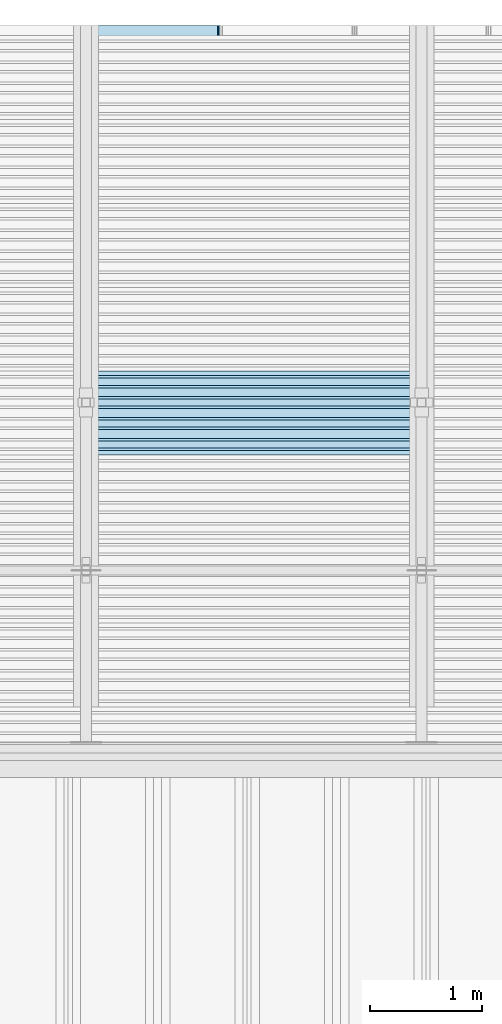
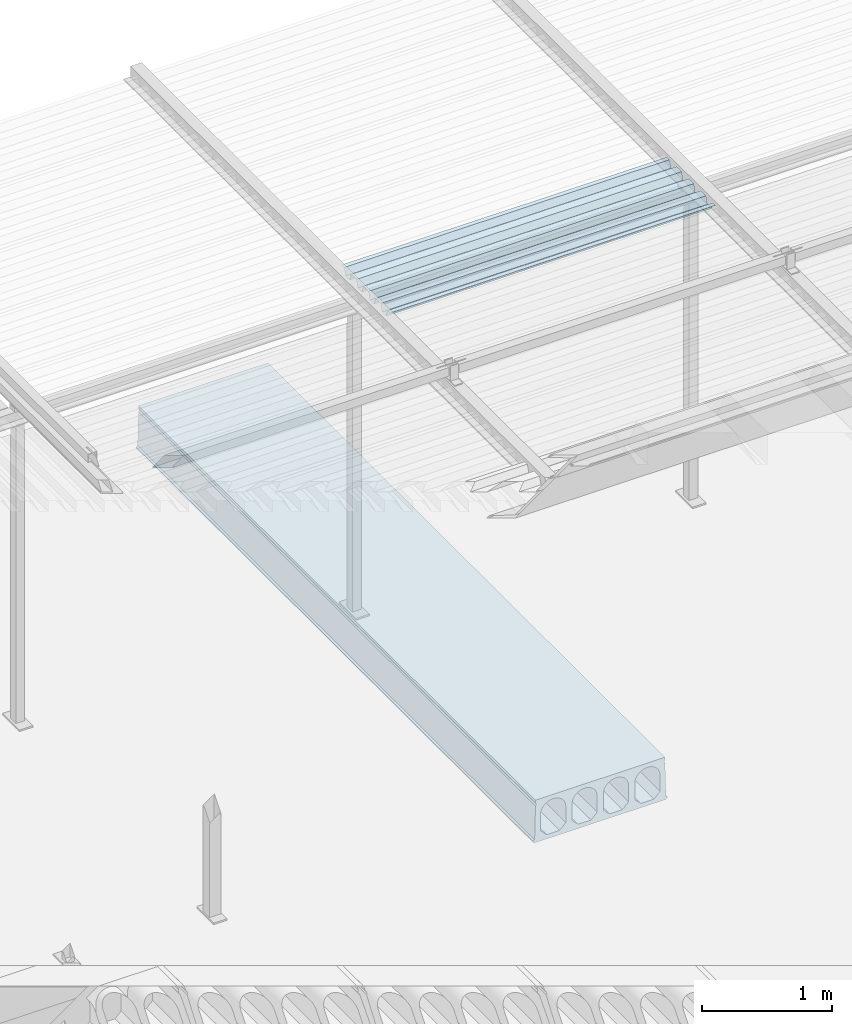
# One storey, part 87 of 98: 2 slabs.
"""IFC2X3 building model written with IfcOpenShell, lengths in millimetres."""

import ifcopenshell
import ifcopenshell.guid

model = None  # the IFC model being written
_history = None  # IfcOwnerHistory: only IFC2X3 demands one
_inside = {}  # id of a spatial element -> (the spatial element, [elements in it])
_under = {}  # id of a project, library or spatial element -> (it, [spatial elements below it])
_declared = {}  # id of a project -> (the project, [libraries it declares])
_typed = {}  # id of a type object -> (the type object, [elements of that type])
_made_of = {}  # id of a material, layer set ... -> (it, [elements and type objects made of it])


def new_model(schema):
    """Start an empty IFC model of exactly this schema.

    Asked for "IFC4X3", IfcOpenShell would pick the latest addendum, in which some entities
    have other attributes; the version numbers below select the first issue.
    IFC2X3 requires an IfcOwnerHistory on every rooted entity: one is made here for all.
    """
    global model, _history
    if schema == "IFC4X3":
        model = ifcopenshell.file(schema_version=(4, 3, 0, 0))
    else:
        model = ifcopenshell.file(schema=schema)
    _inside.clear()
    _under.clear()
    _declared.clear()
    _typed.clear()
    _made_of.clear()
    _history = None
    if model.schema == "IFC2X3":
        org = make("IfcOrganization", Name="unknown")
        user = make(
            "IfcPersonAndOrganization",
            ThePerson=make("IfcPerson", FamilyName="unknown"),
            TheOrganization=org,
        )
        app = make(
            "IfcApplication",
            ApplicationDeveloper=org,
            Version="unknown",
            ApplicationFullName="unknown",
            ApplicationIdentifier="unknown",
        )
        _history = make(
            "IfcOwnerHistory",
            OwningUser=user,
            OwningApplication=app,
            ChangeAction="ADDED",
            CreationDate=0,
        )
    return model


def make(cls, **values):
    """One entity of the class cls with the attributes given. An attribute that is None is left unset."""
    return model.create_entity(
        cls, **{name: value for name, value in values.items() if value is not None}
    )


def entity(cls, *values):
    """Any entity or typed value of the class cls, its attributes in the order of the schema. None: left unset."""
    e = model.create_entity(cls)
    for i, value in enumerate(values):
        if value is not None:
            e[i] = value
    return e


def rooted(cls, **values):
    """An entity with a GlobalId (a new one), such as an element, a storey or a relation."""
    return make(cls, GlobalId=ifcopenshell.guid.new(), OwnerHistory=_history, **values)


def si_unit(unit_type, name, prefix=None):
    """IfcSIUnit, for example si_unit("LENGTHUNIT", "METRE", prefix="MILLI")."""
    return make("IfcSIUnit", UnitType=unit_type, Prefix=prefix, Name=name)


def converted_unit(unit_type, name, factor, base, dimensions=None, offset=None):
    """IfcConversionBasedUnit, such as the inch: factor (a typed value) times the base unit."""
    return make(
        "IfcConversionBasedUnit"
        if offset is None
        else "IfcConversionBasedUnitWithOffset",
        ConversionOffset=offset,
        Dimensions=None
        if dimensions is None
        else entity("IfcDimensionalExponents", *dimensions),
        UnitType=unit_type,
        Name=name,
        ConversionFactor=make(
            "IfcMeasureWithUnit", ValueComponent=factor, UnitComponent=base
        ),
    )


def derived_unit(unit_type, elements):
    """IfcDerivedUnit: a product of units, each with its exponent."""
    return make(
        "IfcDerivedUnit",
        Elements=[
            make("IfcDerivedUnitElement", Unit=unit, Exponent=power)
            for unit, power in elements
        ],
        UnitType=unit_type,
    )


def assignment(units):
    """IfcUnitAssignment: the units of a project."""
    return None if units is None else make("IfcUnitAssignment", Units=units)


def point(xyz):
    """IfcCartesianPoint."""
    return None if xyz is None else make("IfcCartesianPoint", Coordinates=xyz)


def direction(xyz):
    """IfcDirection."""
    return None if xyz is None else make("IfcDirection", DirectionRatios=xyz)


def frame(location, z_axis=None, x_axis=None):
    """IfcAxis2Placement3D, a coordinate frame: its origin and axes. An axis left out is left unset."""
    return make(
        "IfcAxis2Placement3D",
        Location=point(location),
        Axis=direction(z_axis),
        RefDirection=direction(x_axis),
    )


def origin_with_axes():
    """The frame at (0, 0, 0) with the z axis (0, 0, 1) and the x axis (1, 0, 0) written out."""
    return frame((0.0, 0.0, 0.0), z_axis=(0.0, 0.0, 1.0), x_axis=(1.0, 0.0, 0.0))


def place(relative_to, where):
    """IfcLocalPlacement: puts the frame where relative to a parent placement (None: the world)."""
    return make(
        "IfcLocalPlacement", PlacementRelTo=relative_to, RelativePlacement=where
    )


def context(
    kind, dimensions, precision=None, world=None, true_north=None, identifier=None
):
    """IfcGeometricRepresentationContext, for example the 3D "Model" context."""
    return make(
        "IfcGeometricRepresentationContext",
        ContextIdentifier=identifier,
        ContextType=kind,
        CoordinateSpaceDimension=dimensions,
        Precision=precision,
        WorldCoordinateSystem=world,
        TrueNorth=true_north,
    )


def subcontext(parent, identifier, kind, view, scale=None):
    """IfcGeometricRepresentationSubContext, for example "Body" below "Model"."""
    return make(
        "IfcGeometricRepresentationSubContext",
        ContextIdentifier=identifier,
        ContextType=kind,
        ParentContext=parent,
        TargetScale=scale,
        TargetView=view,
    )


def project(units=None, contexts=None):
    """IfcProject with its units and contexts."""
    return rooted(
        "IfcProject",
        Name="project",
        RepresentationContexts=contexts,
        UnitsInContext=assignment(units),
    )


def spatial(cls, under=None, at=None, **own):
    """A site, building, storey or space (cls), placed at a placement, below another one or the project."""
    s = rooted(cls, ObjectPlacement=at, **own)
    if under is not None:
        _under.setdefault(under.id(), (under, []))[1].append(s)
    return s


def faces_of(points, faces, orient=None, outer=None):
    """IfcFace entities. A face is a list of loops; a loop is a list of indices into points, from 0.

    orient and outer hold one flag for each loop. By default every Orientation is true, the
    first loop of a face is its IfcFaceOuterBound and the others are IfcFaceBound.
    """
    made = []
    for i, loops in enumerate(faces):
        bounds = []
        for j, loop in enumerate(loops):
            is_outer = j == 0 if outer is None else outer[i][j]
            bounds.append(
                make(
                    "IfcFaceOuterBound" if is_outer else "IfcFaceBound",
                    Bound=make("IfcPolyLoop", Polygon=[points[k] for k in loop]),
                    Orientation=True if orient is None else orient[i][j],
                )
            )
        made.append(make("IfcFace", Bounds=bounds))
    return made


def faceted_brep(points, faces, orient=None, outer=None, voids=None):
    """IfcFacetedBrep: a solid bounded by flat faces; with voids (closed shells), ...WithVoids."""
    shared = [point(p) for p in points]
    hull = make("IfcClosedShell", CfsFaces=faces_of(shared, faces, orient, outer))
    if voids is None:
        return make("IfcFacetedBrep", Outer=hull)
    return make(
        "IfcFacetedBrepWithVoids",
        Outer=hull,
        Voids=[
            make(cls, CfsFaces=faces_of(shared, fs, o, b)) for cls, fs, o, b in voids
        ],
    )


def shape(context_of_items, identifier, shape_type, items):
    """IfcShapeRepresentation: the items that make up one representation, for example the "Body"."""
    return make(
        "IfcShapeRepresentation",
        ContextOfItems=context_of_items,
        RepresentationIdentifier=identifier,
        RepresentationType=shape_type,
        Items=items,
    )


def material(Name=None, Category=None):
    """IfcMaterial."""
    return make("IfcMaterial", Name=Name, Category=Category)


def made_of(thing, what):
    """Note that an element or type object is made of a material, layer set ...; save() writes the relation."""
    if what is not None:
        _made_of.setdefault(what.id(), (what, []))[1].append(thing)
    return thing


def type_object(cls, material=None, **own):
    """A type object (cls), such as IfcWallType, which elements share."""
    return made_of(rooted(cls, **own), material)


def element(
    cls,
    number,
    at=None,
    inside=None,
    cuts=None,
    type_object=None,
    material=None,
    context=None,
    identifier="Body",
    shape_type=None,
    held_by="IfcProductDefinitionShape",
    body=None,
    shapes=None,
    **own,
):
    """One element of the class cls, such as IfcWall. Its Tag is "e" and its number.

    at: its placement. inside: the storey or other place that contains it. cuts: it is an
    opening in that element (IfcRelVoidsElement). A single representation is given by context,
    identifier, shape_type and body (its items); several are given by shapes. held_by: the class
    of the entity that holds the representations. save() writes the other relations.
    """
    e = rooted(cls, Tag="e%d" % number, ObjectPlacement=at, **own)
    if body is not None:
        shapes = [shape(context, identifier, shape_type, body)]
    if shapes is not None:
        e.Representation = make(held_by, Representations=shapes)
    if inside is not None:
        _inside.setdefault(inside.id(), (inside, []))[1].append(e)
    if cuts is not None:
        rooted(
            "IfcRelVoidsElement", RelatingBuildingElement=cuts, RelatedOpeningElement=e
        )
    if type_object is not None:
        _typed.setdefault(type_object.id(), (type_object, []))[1].append(e)
    return made_of(e, material)


def aggregate(whole, parts):
    """IfcRelAggregates: a whole, such as a stair, and the parts it consists of."""
    return rooted("IfcRelAggregates", RelatingObject=whole, RelatedObjects=parts)


def save(model, path):
    """Write the relations noted so far, then the file.

    IfcRelAggregates (storeys below a building ...), IfcRelContainedInSpatialStructure (elements
    in a storey), IfcRelDefinesByType, IfcRelAssociatesMaterial and IfcRelDeclares: one each for
    every whole, place, type object, material and project.
    """
    for whole, parts in _under.values():
        aggregate(whole, parts)
    for where, things in _inside.values():
        rooted(
            "IfcRelContainedInSpatialStructure",
            RelatedElements=things,
            RelatingStructure=where,
        )
    for kind, things in _typed.values():
        rooted("IfcRelDefinesByType", RelatedObjects=things, RelatingType=kind)
    for what, things in _made_of.values():
        rooted("IfcRelAssociatesMaterial", RelatedObjects=things, RelatingMaterial=what)
    for by, libraries in _declared.values():
        rooted("IfcRelDeclares", RelatingContext=by, RelatedDefinitions=libraries)
    model.write(path)


model = new_model("IFC2X3")

# Units and contexts
model_context = context("Model", 3, precision=0.01, world=frame((0.0, 4.29681676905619e-09, 0.0)), true_north=direction((4.01073788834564e-13, 1.0)))
plan_context = context("Plan", 3, precision=0.01, world=frame((0.0, 4.29681676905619e-09, 0.0)), true_north=direction((4.01073788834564e-13, 1.0)))
body_context = subcontext(model_context, "Body", "Model", "MODEL_VIEW")
ifc_project = project(units=[converted_unit("PLANEANGLEUNIT", "DEGREE", entity("IfcPositiveLengthMeasure", 0.0174532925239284), si_unit("PLANEANGLEUNIT", "RADIAN"), dimensions=[0, 0, 0, 0, 0, 0, 0]), si_unit("AREAUNIT", "SQUARE_METRE"), si_unit("LENGTHUNIT", "METRE", prefix="MILLI"), si_unit("MASSUNIT", "GRAM", prefix="KILO"), si_unit("POWERUNIT", "WATT"), si_unit("PRESSUREUNIT", "PASCAL"), si_unit("FORCEUNIT", "NEWTON", prefix="KILO"), si_unit("ELECTRICCURRENTUNIT", "AMPERE"), si_unit("THERMODYNAMICTEMPERATUREUNIT", "DEGREE_CELSIUS"), si_unit("TIMEUNIT", "SECOND"), si_unit("VOLUMEUNIT", "CUBIC_METRE"), derived_unit("LINEARVELOCITYUNIT", [(si_unit("LENGTHUNIT", "METRE"), 1), (si_unit("TIMEUNIT", "SECOND"), -1)]), derived_unit("VOLUMETRICFLOWRATEUNIT", [(si_unit("VOLUMEUNIT", "CUBIC_METRE"), 1), (si_unit("TIMEUNIT", "SECOND"), -1)]), derived_unit("THERMALTRANSMITTANCEUNIT", [(si_unit("POWERUNIT", "WATT"), 1), (si_unit("THERMODYNAMICTEMPERATUREUNIT", "KELVIN"), -1), (si_unit("AREAUNIT", "SQUARE_METRE"), -1)])], contexts=[model_context, plan_context])

# Site, building, storey
site_placement = place(None, frame((0.0, -4.29681676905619e-09, 0.0), z_axis=(0.0, 0.0, 1.0), x_axis=(1.0, 0.0, 0.0)))
site = spatial("IfcSite", under=ifc_project, at=site_placement, Name="Gardermoen", CompositionType="ELEMENT")
building_placement = place(site_placement, frame((0.0, 4.29681676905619e-09, 0.0), z_axis=(0.0, 0.0, 1.0), x_axis=(1.0, 0.0, 0.0)))
building = spatial("IfcBuilding", under=site, at=building_placement, Name="TS", CompositionType="ELEMENT")
storey_placement = place(building_placement, origin_with_axes())
storey = spatial("IfcBuildingStorey", under=building, at=storey_placement, Name="D", CompositionType="ELEMENT", Elevation=0.0)

# Slabs
slab_type_1 = type_object("IfcSlabType", Name="HD400", PredefinedType="NOTDEFINED")
slab_1_placement = place(storey_placement, frame((523599.999766, 414739.995625, 203600.0), z_axis=(0.0, 0.0, 1.0), x_axis=(0.0, 1.0, 0.0)))
element("IfcSlab", 1, at=slab_1_placement, inside=storey, type_object=slab_type_1, Name="HULLDEKKE", ObjectType="HD400", PredefinedType="FLOOR", context=body_context, shape_type="Brep", body=[
    faceted_brep([(6130.19582840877, 600.0, -190.0), (6130.19582840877, 600.0, -180.0), (0.0, 600.0, -180.0), (0.0, 600.0, -190.0), (6130.19582840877, 585.0, -170.0), (0.0, 585.0, -170.0), (6130.19582840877, 577.5, 145.0), (0.0, 577.5, 145.0), (6130.19582840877, 570.0, 160.0), (0.0, 570.0, 160.0), (6130.19582840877, 577.5, 175.0), (0.0, 577.5, 175.0), (6130.19582840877, 577.5, 200.0), (0.0, 577.5, 200.0), (6130.19582840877, -577.5, 200.0), (0.0, -577.5, 200.0), (6130.19582840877, -577.5, 175.0), (0.0, -577.5, 175.0), (6130.19582840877, -570.0, 160.0), (0.0, -570.0, 160.0), (6130.19582840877, -577.5, 145.0), (0.0, -577.5, 145.0), (6130.19582840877, -585.0, -170.0), (0.0, -585.0, -170.0), (6130.19582840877, -600.0, -180.0), (0.0, -600.0, -180.0), (6130.19582840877, -600.0, -190.0), (0.0, -600.0, -190.0), (6130.19582840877, -583.380004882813, -200.0), (0.0, -583.380004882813, -200.0), (6130.19582840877, 583.380004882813, -200.0), (0.0, 583.380004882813, -200.0), (6130.19582840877, -362.5, -160.0), (6130.19582840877, -477.5, -160.0), (0.0, -477.5, -160.0), (0.0, -362.5, -160.0), (6130.19582840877, -532.5, -105.0), (0.0, -532.5, -105.0), (6130.19582840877, -532.5, 47.5), (0.0, -532.5, 47.5), (6130.19582840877, -532.115755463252, 56.7901763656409), (0.0, -532.115755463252, 56.7901763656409), (6130.19582840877, -530.965646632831, 66.0168914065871), (0.0, -530.965646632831, 66.0168914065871), (6130.19582840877, -529.057529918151, 75.1171173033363), (0.0, -529.057529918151, 75.1171173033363), (6130.19582840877, -526.404439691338, 84.028690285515), (0.0, -526.404439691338, 84.028690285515), (6130.19582840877, -523.024499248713, 92.6907352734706), (0.0, -523.024499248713, 92.6907352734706), (6130.19582840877, -518.940797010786, 101.044081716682), (0.0, -518.940797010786, 101.044081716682), (6130.19582840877, -514.181228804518, 109.031667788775), (0.0, -514.181228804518, 109.031667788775), (6130.19582840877, -508.778307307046, 116.598930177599), (0.0, -508.778307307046, 116.598930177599), (6130.19582840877, -502.768939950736, 123.694176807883), (0.0, -502.768939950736, 123.694176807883), (6130.19582840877, -496.194176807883, 130.268939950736), (0.0, -496.194176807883, 130.268939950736), (6130.19582840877, -489.098930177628, 136.278307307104), (0.0, -489.098930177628, 136.278307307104), (6130.19582840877, -481.531667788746, 141.681228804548), (0.0, -481.531667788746, 141.681228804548), (6130.19582840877, -473.544081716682, 146.440797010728), (0.0, -473.544081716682, 146.440797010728), (6130.19582840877, -465.190735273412, 150.524499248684), (0.0, -465.190735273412, 150.524499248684), (6130.19582840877, -456.528690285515, 153.904439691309), (0.0, -456.528690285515, 153.904439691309), (6130.19582840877, -447.617117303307, 156.55752991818), (0.0, -447.617117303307, 156.55752991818), (6130.19582840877, -438.516891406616, 158.465646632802), (0.0, -438.516891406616, 158.465646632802), (6130.19582840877, -429.290176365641, 159.615755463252), (0.0, -429.290176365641, 159.615755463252), (6130.19582840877, -420.0, 160.0), (0.0, -420.0, 160.0), (6130.19582840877, -410.709823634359, 159.615755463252), (0.0, -410.709823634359, 159.615755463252), (6130.19582840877, -401.483108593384, 158.465646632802), (0.0, -401.483108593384, 158.465646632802), (6130.19582840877, -392.382882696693, 156.55752991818), (0.0, -392.382882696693, 156.55752991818), (6130.19582840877, -383.471309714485, 153.904439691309), (0.0, -383.471309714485, 153.904439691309), (6130.19582840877, -374.809264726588, 150.524499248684), (0.0, -374.809264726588, 150.524499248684), (6130.19582840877, -366.455918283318, 146.440797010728), (0.0, -366.455918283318, 146.440797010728), (6130.19582840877, -358.468332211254, 141.681228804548), (0.0, -358.468332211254, 141.681228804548), (6130.19582840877, -350.901069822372, 136.278307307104), (0.0, -350.901069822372, 136.278307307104), (6130.19582840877, -343.805823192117, 130.268939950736), (0.0, -343.805823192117, 130.268939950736), (6130.19582840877, -337.231060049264, 123.694176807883), (0.0, -337.231060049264, 123.694176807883), (6130.19582840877, -331.221692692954, 116.598930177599), (0.0, -331.221692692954, 116.598930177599), (6130.19582840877, -325.818771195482, 109.031667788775), (0.0, -325.818771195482, 109.031667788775), (6130.19582840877, -321.059202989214, 101.044081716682), (0.0, -321.059202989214, 101.044081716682), (6130.19582840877, -316.975500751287, 92.6907352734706), (0.0, -316.975500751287, 92.6907352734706), (6130.19582840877, -313.595560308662, 84.028690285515), (0.0, -313.595560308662, 84.028690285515), (6130.19582840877, -310.942470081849, 75.1171173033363), (0.0, -310.942470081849, 75.1171173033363), (6130.19582840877, -309.034353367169, 66.0168914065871), (0.0, -309.034353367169, 66.0168914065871), (6130.19582840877, -307.884244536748, 56.7901763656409), (0.0, -307.884244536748, 56.7901763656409), (6130.19582840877, -307.5, 47.5), (0.0, -307.5, 47.5), (6130.19582840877, -307.5, -105.0), (0.0, -307.5, -105.0), (6130.19582840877, -82.5, -160.0), (6130.19582840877, -197.5, -160.0), (0.0, -197.5, -160.0), (0.0, -82.5, -160.0), (6130.19582840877, -252.5, -105.0), (0.0, -252.5, -105.0), (6130.19582840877, -252.5, 47.5), (0.0, -252.5, 47.5), (6130.19582840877, -252.115755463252, 56.7901763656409), (0.0, -252.115755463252, 56.7901763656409), (6130.19582840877, -250.965646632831, 66.0168914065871), (0.0, -250.965646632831, 66.0168914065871), (6130.19582840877, -249.057529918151, 75.1171173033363), (0.0, -249.057529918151, 75.1171173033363), (6130.19582840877, -246.404439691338, 84.028690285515), (0.0, -246.404439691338, 84.028690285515), (6130.19582840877, -243.024499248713, 92.6907352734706), (0.0, -243.024499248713, 92.6907352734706), (6130.19582840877, -238.940797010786, 101.044081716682), (0.0, -238.940797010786, 101.044081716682), (6130.19582840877, -234.181228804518, 109.031667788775), (0.0, -234.181228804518, 109.031667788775), (6130.19582840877, -228.778307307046, 116.598930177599), (0.0, -228.778307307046, 116.598930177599), (6130.19582840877, -222.768939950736, 123.694176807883), (0.0, -222.768939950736, 123.694176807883), (6130.19582840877, -216.194176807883, 130.268939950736), (0.0, -216.194176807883, 130.268939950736), (6130.19582840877, -209.098930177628, 136.278307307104), (0.0, -209.098930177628, 136.278307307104), (6130.19582840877, -201.531667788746, 141.681228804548), (0.0, -201.531667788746, 141.681228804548), (6130.19582840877, -193.544081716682, 146.440797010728), (0.0, -193.544081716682, 146.440797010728), (6130.19582840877, -185.190735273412, 150.524499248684), (0.0, -185.190735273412, 150.524499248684), (6130.19582840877, -176.528690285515, 153.904439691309), (0.0, -176.528690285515, 153.904439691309), (6130.19582840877, -167.617117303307, 156.55752991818), (0.0, -167.617117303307, 156.55752991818), (6130.19582840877, -158.516891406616, 158.465646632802), (0.0, -158.516891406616, 158.465646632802), (6130.19582840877, -149.290176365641, 159.615755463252), (0.0, -149.290176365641, 159.615755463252), (6130.19582840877, -140.0, 160.0), (0.0, -140.0, 160.0), (6130.19582840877, -130.709823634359, 159.615755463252), (0.0, -130.709823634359, 159.615755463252), (6130.19582840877, -121.483108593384, 158.465646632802), (0.0, -121.483108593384, 158.465646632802), (6130.19582840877, -112.382882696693, 156.55752991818), (0.0, -112.382882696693, 156.55752991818), (6130.19582840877, -103.471309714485, 153.904439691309), (0.0, -103.471309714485, 153.904439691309), (6130.19582840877, -94.8092647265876, 150.524499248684), (0.0, -94.8092647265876, 150.524499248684), (6130.19582840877, -86.4559182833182, 146.440797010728), (0.0, -86.4559182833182, 146.440797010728), (6130.19582840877, -78.4683322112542, 141.681228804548), (0.0, -78.4683322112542, 141.681228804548), (6130.19582840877, -70.9010698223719, 136.278307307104), (0.0, -70.9010698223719, 136.278307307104), (6130.19582840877, -63.8058231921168, 130.268939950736), (0.0, -63.8058231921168, 130.268939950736), (6130.19582840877, -57.2310600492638, 123.694176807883), (0.0, -57.2310600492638, 123.694176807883), (6130.19582840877, -51.2216926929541, 116.598930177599), (0.0, -51.2216926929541, 116.598930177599), (6130.19582840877, -45.8187711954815, 109.031667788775), (0.0, -45.8187711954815, 109.031667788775), (6130.19582840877, -41.0592029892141, 101.044081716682), (0.0, -41.0592029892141, 101.044081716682), (6130.19582840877, -36.9755007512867, 92.6907352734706), (0.0, -36.9755007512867, 92.6907352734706), (6130.19582840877, -33.5955603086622, 84.028690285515), (0.0, -33.5955603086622, 84.028690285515), (6130.19582840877, -30.942470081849, 75.1171173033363), (0.0, -30.942470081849, 75.1171173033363), (6130.19582840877, -29.0343533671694, 66.0168914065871), (0.0, -29.0343533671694, 66.0168914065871), (6130.19582840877, -27.8842445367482, 56.7901763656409), (0.0, -27.8842445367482, 56.7901763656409), (6130.19582840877, -27.5, 47.5), (0.0, -27.5, 47.5), (6130.19582840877, -27.5, -105.0), (0.0, -27.5, -105.0), (6130.19582840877, 197.5, -160.0), (6130.19582840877, 82.5, -160.0), (0.0, 82.5, -160.0), (0.0, 197.5, -160.0), (6130.19582840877, 27.5, -105.0), (0.0, 27.5, -105.0), (6130.19582840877, 27.5, 47.5), (0.0, 27.5, 47.5), (6130.19582840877, 27.8842445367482, 56.7901763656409), (0.0, 27.8842445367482, 56.7901763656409), (6130.19582840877, 29.0343533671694, 66.0168914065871), (0.0, 29.0343533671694, 66.0168914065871), (6130.19582840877, 30.942470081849, 75.1171173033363), (0.0, 30.942470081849, 75.1171173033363), (6130.19582840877, 33.5955603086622, 84.028690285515), (0.0, 33.5955603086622, 84.028690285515), (6130.19582840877, 36.9755007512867, 92.6907352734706), (0.0, 36.9755007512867, 92.6907352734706), (6130.19582840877, 41.0592029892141, 101.044081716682), (0.0, 41.0592029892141, 101.044081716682), (6130.19582840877, 45.8187711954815, 109.031667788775), (0.0, 45.8187711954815, 109.031667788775), (6130.19582840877, 51.2216926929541, 116.598930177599), (0.0, 51.2216926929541, 116.598930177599), (6130.19582840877, 57.2310600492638, 123.694176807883), (0.0, 57.2310600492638, 123.694176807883), (6130.19582840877, 63.8058231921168, 130.268939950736), (0.0, 63.8058231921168, 130.268939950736), (6130.19582840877, 70.9010698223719, 136.278307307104), (0.0, 70.9010698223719, 136.278307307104), (6130.19582840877, 78.4683322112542, 141.681228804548), (0.0, 78.4683322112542, 141.681228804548), (6130.19582840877, 86.4559182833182, 146.440797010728), (0.0, 86.4559182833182, 146.440797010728), (6130.19582840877, 94.8092647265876, 150.524499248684), (0.0, 94.8092647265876, 150.524499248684), (6130.19582840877, 103.471309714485, 153.904439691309), (0.0, 103.471309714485, 153.904439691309), (6130.19582840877, 112.382882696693, 156.55752991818), (0.0, 112.382882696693, 156.55752991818), (6130.19582840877, 121.483108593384, 158.465646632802), (0.0, 121.483108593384, 158.465646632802), (6130.19582840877, 130.709823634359, 159.615755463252), (0.0, 130.709823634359, 159.615755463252), (6130.19582840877, 140.0, 160.0), (0.0, 140.0, 160.0), (6130.19582840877, 149.290176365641, 159.615755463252), (0.0, 149.290176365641, 159.615755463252), (6130.19582840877, 158.516891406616, 158.465646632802), (0.0, 158.516891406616, 158.465646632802), (6130.19582840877, 167.617117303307, 156.55752991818), (0.0, 167.617117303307, 156.55752991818), (6130.19582840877, 176.528690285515, 153.904439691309), (0.0, 176.528690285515, 153.904439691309), (6130.19582840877, 185.190735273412, 150.524499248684), (0.0, 185.190735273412, 150.524499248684), (6130.19582840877, 193.544081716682, 146.440797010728), (0.0, 193.544081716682, 146.440797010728), (6130.19582840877, 201.531667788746, 141.681228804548), (0.0, 201.531667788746, 141.681228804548), (6130.19582840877, 209.098930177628, 136.278307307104), (0.0, 209.098930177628, 136.278307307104), (6130.19582840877, 216.194176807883, 130.268939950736), (0.0, 216.194176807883, 130.268939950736), (6130.19582840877, 222.768939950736, 123.694176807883), (0.0, 222.768939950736, 123.694176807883), (6130.19582840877, 228.778307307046, 116.598930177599), (0.0, 228.778307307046, 116.598930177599), (6130.19582840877, 234.181228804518, 109.031667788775), (0.0, 234.181228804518, 109.031667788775), (6130.19582840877, 238.940797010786, 101.044081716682), (0.0, 238.940797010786, 101.044081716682), (6130.19582840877, 243.024499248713, 92.6907352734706), (0.0, 243.024499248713, 92.6907352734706), (6130.19582840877, 246.404439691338, 84.028690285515), (0.0, 246.404439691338, 84.028690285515), (6130.19582840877, 249.057529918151, 75.1171173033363), (0.0, 249.057529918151, 75.1171173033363), (6130.19582840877, 250.965646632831, 66.0168914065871), (0.0, 250.965646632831, 66.0168914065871), (6130.19582840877, 252.115755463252, 56.7901763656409), (0.0, 252.115755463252, 56.7901763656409), (6130.19582840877, 252.5, 47.5), (0.0, 252.5, 47.5), (6130.19582840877, 252.5, -105.0), (0.0, 252.5, -105.0), (6130.19582840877, 477.5, -160.0), (6130.19582840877, 362.5, -160.0), (0.0, 362.5, -160.0), (0.0, 477.5, -160.0), (6130.19582840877, 307.5, -105.0), (0.0, 307.5, -105.0), (6130.19582840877, 307.5, 47.5), (0.0, 307.5, 47.5), (6130.19582840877, 307.884244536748, 56.7901763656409), (0.0, 307.884244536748, 56.7901763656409), (6130.19582840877, 309.034353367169, 66.0168914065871), (0.0, 309.034353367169, 66.0168914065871), (6130.19582840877, 310.942470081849, 75.1171173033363), (0.0, 310.942470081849, 75.1171173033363), (6130.19582840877, 313.595560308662, 84.028690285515), (0.0, 313.595560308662, 84.028690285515), (6130.19582840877, 316.975500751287, 92.6907352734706), (0.0, 316.975500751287, 92.6907352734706), (6130.19582840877, 321.059202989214, 101.044081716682), (0.0, 321.059202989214, 101.044081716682), (6130.19582840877, 325.818771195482, 109.031667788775), (0.0, 325.818771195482, 109.031667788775), (6130.19582840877, 331.221692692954, 116.598930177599), (0.0, 331.221692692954, 116.598930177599), (6130.19582840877, 337.231060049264, 123.694176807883), (0.0, 337.231060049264, 123.694176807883), (6130.19582840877, 343.805823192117, 130.268939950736), (0.0, 343.805823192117, 130.268939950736), (6130.19582840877, 350.901069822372, 136.278307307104), (0.0, 350.901069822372, 136.278307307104), (6130.19582840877, 358.468332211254, 141.681228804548), (0.0, 358.468332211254, 141.681228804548), (6130.19582840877, 366.455918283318, 146.440797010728), (0.0, 366.455918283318, 146.440797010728), (6130.19582840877, 374.809264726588, 150.524499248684), (0.0, 374.809264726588, 150.524499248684), (6130.19582840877, 383.471309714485, 153.904439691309), (0.0, 383.471309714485, 153.904439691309), (6130.19582840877, 392.382882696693, 156.55752991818), (0.0, 392.382882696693, 156.55752991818), (6130.19582840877, 401.483108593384, 158.465646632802), (0.0, 401.483108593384, 158.465646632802), (6130.19582840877, 410.709823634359, 159.615755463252), (0.0, 410.709823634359, 159.615755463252), (6130.19582840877, 420.0, 160.0), (0.0, 420.0, 160.0), (6130.19582840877, 429.290176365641, 159.615755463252), (0.0, 429.290176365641, 159.615755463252), (6130.19582840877, 438.516891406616, 158.465646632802), (0.0, 438.516891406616, 158.465646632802), (6130.19582840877, 447.617117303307, 156.55752991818), (0.0, 447.617117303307, 156.55752991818), (6130.19582840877, 456.528690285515, 153.904439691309), (0.0, 456.528690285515, 153.904439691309), (6130.19582840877, 465.190735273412, 150.524499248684), (0.0, 465.190735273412, 150.524499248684), (6130.19582840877, 473.544081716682, 146.440797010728), (0.0, 473.544081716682, 146.440797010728), (6130.19582840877, 481.531667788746, 141.681228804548), (0.0, 481.531667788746, 141.681228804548), (6130.19582840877, 489.098930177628, 136.278307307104), (0.0, 489.098930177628, 136.278307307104), (6130.19582840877, 496.194176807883, 130.268939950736), (0.0, 496.194176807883, 130.268939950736), (6130.19582840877, 502.768939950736, 123.694176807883), (0.0, 502.768939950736, 123.694176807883), (6130.19582840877, 508.778307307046, 116.598930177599), (0.0, 508.778307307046, 116.598930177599), (6130.19582840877, 514.181228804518, 109.031667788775), (0.0, 514.181228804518, 109.031667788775), (6130.19582840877, 518.940797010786, 101.044081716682), (0.0, 518.940797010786, 101.044081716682), (6130.19582840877, 523.024499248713, 92.6907352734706), (0.0, 523.024499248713, 92.6907352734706), (6130.19582840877, 526.404439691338, 84.028690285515), (0.0, 526.404439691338, 84.028690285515), (6130.19582840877, 529.057529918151, 75.1171173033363), (0.0, 529.057529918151, 75.1171173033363), (6130.19582840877, 530.965646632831, 66.0168914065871), (0.0, 530.965646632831, 66.0168914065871), (6130.19582840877, 532.115755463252, 56.7901763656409), (0.0, 532.115755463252, 56.7901763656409), (6130.19582840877, 532.5, 47.5), (0.0, 532.5, 47.5), (6130.19582840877, 532.5, -105.0), (0.0, 532.5, -105.0)], [[[0, 1, 2, 3]], [[1, 4, 5, 2]], [[4, 6, 7, 5]], [[6, 8, 9, 7]], [[8, 10, 11, 9]], [[10, 12, 13, 11]], [[12, 14, 15, 13]], [[14, 16, 17, 15]], [[16, 18, 19, 17]], [[18, 20, 21, 19]], [[20, 22, 23, 21]], [[22, 24, 25, 23]], [[24, 26, 27, 25]], [[26, 28, 29, 27]], [[28, 30, 31, 29]], [[30, 0, 3, 31]], [[32, 33, 34, 35]], [[33, 36, 37, 34]], [[36, 38, 39, 37]], [[38, 40, 41, 39]], [[40, 42, 43, 41]], [[42, 44, 45, 43]], [[44, 46, 47, 45]], [[46, 48, 49, 47]], [[48, 50, 51, 49]], [[50, 52, 53, 51]], [[52, 54, 55, 53]], [[54, 56, 57, 55]], [[56, 58, 59, 57]], [[58, 60, 61, 59]], [[60, 62, 63, 61]], [[62, 64, 65, 63]], [[64, 66, 67, 65]], [[66, 68, 69, 67]], [[68, 70, 71, 69]], [[70, 72, 73, 71]], [[72, 74, 75, 73]], [[74, 76, 77, 75]], [[76, 78, 79, 77]], [[78, 80, 81, 79]], [[80, 82, 83, 81]], [[82, 84, 85, 83]], [[84, 86, 87, 85]], [[86, 88, 89, 87]], [[88, 90, 91, 89]], [[90, 92, 93, 91]], [[92, 94, 95, 93]], [[94, 96, 97, 95]], [[96, 98, 99, 97]], [[98, 100, 101, 99]], [[100, 102, 103, 101]], [[102, 104, 105, 103]], [[104, 106, 107, 105]], [[106, 108, 109, 107]], [[108, 110, 111, 109]], [[110, 112, 113, 111]], [[112, 114, 115, 113]], [[114, 116, 117, 115]], [[116, 32, 35, 117]], [[118, 119, 120, 121]], [[119, 122, 123, 120]], [[122, 124, 125, 123]], [[124, 126, 127, 125]], [[126, 128, 129, 127]], [[128, 130, 131, 129]], [[130, 132, 133, 131]], [[132, 134, 135, 133]], [[134, 136, 137, 135]], [[136, 138, 139, 137]], [[138, 140, 141, 139]], [[140, 142, 143, 141]], [[142, 144, 145, 143]], [[144, 146, 147, 145]], [[146, 148, 149, 147]], [[148, 150, 151, 149]], [[150, 152, 153, 151]], [[152, 154, 155, 153]], [[154, 156, 157, 155]], [[156, 158, 159, 157]], [[158, 160, 161, 159]], [[160, 162, 163, 161]], [[162, 164, 165, 163]], [[164, 166, 167, 165]], [[166, 168, 169, 167]], [[168, 170, 171, 169]], [[170, 172, 173, 171]], [[172, 174, 175, 173]], [[174, 176, 177, 175]], [[176, 178, 179, 177]], [[178, 180, 181, 179]], [[180, 182, 183, 181]], [[182, 184, 185, 183]], [[184, 186, 187, 185]], [[186, 188, 189, 187]], [[188, 190, 191, 189]], [[190, 192, 193, 191]], [[192, 194, 195, 193]], [[194, 196, 197, 195]], [[196, 198, 199, 197]], [[198, 200, 201, 199]], [[200, 202, 203, 201]], [[202, 118, 121, 203]], [[204, 205, 206, 207]], [[205, 208, 209, 206]], [[208, 210, 211, 209]], [[210, 212, 213, 211]], [[212, 214, 215, 213]], [[214, 216, 217, 215]], [[216, 218, 219, 217]], [[218, 220, 221, 219]], [[220, 222, 223, 221]], [[222, 224, 225, 223]], [[224, 226, 227, 225]], [[226, 228, 229, 227]], [[228, 230, 231, 229]], [[230, 232, 233, 231]], [[232, 234, 235, 233]], [[234, 236, 237, 235]], [[236, 238, 239, 237]], [[238, 240, 241, 239]], [[240, 242, 243, 241]], [[242, 244, 245, 243]], [[244, 246, 247, 245]], [[246, 248, 249, 247]], [[248, 250, 251, 249]], [[250, 252, 253, 251]], [[252, 254, 255, 253]], [[254, 256, 257, 255]], [[256, 258, 259, 257]], [[258, 260, 261, 259]], [[260, 262, 263, 261]], [[262, 264, 265, 263]], [[264, 266, 267, 265]], [[266, 268, 269, 267]], [[268, 270, 271, 269]], [[270, 272, 273, 271]], [[272, 274, 275, 273]], [[274, 276, 277, 275]], [[276, 278, 279, 277]], [[278, 280, 281, 279]], [[280, 282, 283, 281]], [[282, 284, 285, 283]], [[284, 286, 287, 285]], [[286, 288, 289, 287]], [[288, 204, 207, 289]], [[290, 291, 292, 293]], [[291, 294, 295, 292]], [[294, 296, 297, 295]], [[296, 298, 299, 297]], [[298, 300, 301, 299]], [[300, 302, 303, 301]], [[302, 304, 305, 303]], [[304, 306, 307, 305]], [[306, 308, 309, 307]], [[308, 310, 311, 309]], [[310, 312, 313, 311]], [[312, 314, 315, 313]], [[314, 316, 317, 315]], [[316, 318, 319, 317]], [[318, 320, 321, 319]], [[320, 322, 323, 321]], [[322, 324, 325, 323]], [[324, 326, 327, 325]], [[326, 328, 329, 327]], [[328, 330, 331, 329]], [[330, 332, 333, 331]], [[332, 334, 335, 333]], [[334, 336, 337, 335]], [[336, 338, 339, 337]], [[338, 340, 341, 339]], [[340, 342, 343, 341]], [[342, 344, 345, 343]], [[344, 346, 347, 345]], [[346, 348, 349, 347]], [[348, 350, 351, 349]], [[350, 352, 353, 351]], [[352, 354, 355, 353]], [[354, 356, 357, 355]], [[356, 358, 359, 357]], [[358, 360, 361, 359]], [[360, 362, 363, 361]], [[362, 364, 365, 363]], [[364, 366, 367, 365]], [[366, 368, 369, 367]], [[368, 370, 371, 369]], [[370, 372, 373, 371]], [[372, 374, 375, 373]], [[374, 290, 293, 375]], [[3, 2, 5, 7, 9, 11, 13, 15, 17, 19, 21, 23, 25, 27, 29, 31], [293, 292, 295, 297, 299, 301, 303, 305, 307, 309, 311, 313, 315, 317, 319, 321, 323, 325, 327, 329, 331, 333, 335, 337, 339, 341, 343, 345, 347, 349, 351, 353, 355, 357, 359, 361, 363, 365, 367, 369, 371, 373, 375], [207, 206, 209, 211, 213, 215, 217, 219, 221, 223, 225, 227, 229, 231, 233, 235, 237, 239, 241, 243, 245, 247, 249, 251, 253, 255, 257, 259, 261, 263, 265, 267, 269, 271, 273, 275, 277, 279, 281, 283, 285, 287, 289], [121, 120, 123, 125, 127, 129, 131, 133, 135, 137, 139, 141, 143, 145, 147, 149, 151, 153, 155, 157, 159, 161, 163, 165, 167, 169, 171, 173, 175, 177, 179, 181, 183, 185, 187, 189, 191, 193, 195, 197, 199, 201, 203], [35, 34, 37, 39, 41, 43, 45, 47, 49, 51, 53, 55, 57, 59, 61, 63, 65, 67, 69, 71, 73, 75, 77, 79, 81, 83, 85, 87, 89, 91, 93, 95, 97, 99, 101, 103, 105, 107, 109, 111, 113, 115, 117]], [[30, 28, 26, 24, 22, 20, 18, 16, 14, 12, 10, 8, 6, 4, 1, 0], [116, 114, 112, 110, 108, 106, 104, 102, 100, 98, 96, 94, 92, 90, 88, 86, 84, 82, 80, 78, 76, 74, 72, 70, 68, 66, 64, 62, 60, 58, 56, 54, 52, 50, 48, 46, 44, 42, 40, 38, 36, 33, 32], [202, 200, 198, 196, 194, 192, 190, 188, 186, 184, 182, 180, 178, 176, 174, 172, 170, 168, 166, 164, 162, 160, 158, 156, 154, 152, 150, 148, 146, 144, 142, 140, 138, 136, 134, 132, 130, 128, 126, 124, 122, 119, 118], [288, 286, 284, 282, 280, 278, 276, 274, 272, 270, 268, 266, 264, 262, 260, 258, 256, 254, 252, 250, 248, 246, 244, 242, 240, 238, 236, 234, 232, 230, 228, 226, 224, 222, 220, 218, 216, 214, 212, 210, 208, 205, 204], [374, 372, 370, 368, 366, 364, 362, 360, 358, 356, 354, 352, 350, 348, 346, 344, 342, 340, 338, 336, 334, 332, 330, 328, 326, 324, 322, 320, 318, 316, 314, 312, 310, 308, 306, 304, 302, 300, 298, 296, 294, 291, 290]]], orient=[[False], [False], [False], [False], [False], [False], [False], [False], [False], [False], [False], [False], [False], [False], [False], [False], [False], [False], [False], [False], [False], [False], [False], [False], [False], [False], [False], [False], [False], [False], [False], [False], [False], [False], [False], [False], [False], [False], [False], [False], [False], [False], [False], [False], [False], [False], [False], [False], [False], [False], [False], [False], [False], [False], [False], [False], [False], [False], [False], [False], [False], [False], [False], [False], [False], [False], [False], [False], [False], [False], [False], [False], [False], [False], [False], [False], [False], [False], [False], [False], [False], [False], [False], [False], [False], [False], [False], [False], [False], [False], [False], [False], [False], [False], [False], [False], [False], [False], [False], [False], [False], [False], [False], [False], [False], [False], [False], [False], [False], [False], [False], [False], [False], [False], [False], [False], [False], [False], [False], [False], [False], [False], [False], [False], [False], [False], [False], [False], [False], [False], [False], [False], [False], [False], [False], [False], [False], [False], [False], [False], [False], [False], [False], [False], [False], [False], [False], [False], [False], [False], [False], [False], [False], [False], [False], [False], [False], [False], [False], [False], [False], [False], [False], [False], [False], [False], [False], [False], [False], [False], [False], [False], [False], [False], [False], [False], [False], [False], [False], [False], [False], [False], [False], [False], [False], [False], [False], [False], [False, False, False, False, False], [False, False, False, False, False]]),
])
ifc_material = material(Name="STEEL/S355")
slab_type_2 = type_object("IfcSlabType", Name="PLANJA70", PredefinedType="NOTDEFINED")
slab_2_placement = place(storey_placement, frame((525950.000000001, 417404.996695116, 206958.849718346), z_axis=(0.0, 0.0, 1.0), x_axis=(-0.999999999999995, -9.99999902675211e-08, 0.0)))
element("IfcSlab", 2, at=slab_2_placement, inside=storey, type_object=slab_type_2, material=ifc_material, Name="STÅLTAK", ObjectType="PLANJA70", PredefinedType="FLOOR", context=body_context, shape_type="Brep", body=[
    faceted_brep([(0.0, 375.0, 34.1500015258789), (0.0, 335.299987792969, 34.1500015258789), (2900.00079747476, 335.299987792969, 34.1500015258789), (2900.00079747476, 375.0, 34.1500015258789), (0.0, 313.010681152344, -32.1500015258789), (2900.00079747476, 313.010681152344, -32.1500015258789), (0.0, 249.489303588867, -32.1500015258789), (2900.00079747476, 249.489303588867, -32.1500015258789), (0.0, 227.199996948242, 34.1500015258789), (2900.00079747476, 227.199996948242, 34.1500015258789), (0.0, 147.800003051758, 34.1500015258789), (2900.00079747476, 147.800003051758, 34.1500015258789), (0.0, 125.280120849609, -33.1500015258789), (2900.00079747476, 125.280120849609, -33.1500015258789), (0.0, 62.2198791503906, -33.1500015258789), (2900.00079747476, 62.2198791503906, -33.1500015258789), (0.0, 39.7000007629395, 34.1500015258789), (2900.00079747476, 39.7000007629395, 34.1500015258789), (0.0, -39.7000007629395, 34.1500015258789), (2900.00079747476, -39.7000007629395, 34.1500015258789), (0.0, -62.2198791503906, -33.1500015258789), (2900.00079747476, -62.2198791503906, -33.1500015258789), (0.0, -125.280120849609, -33.1500015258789), (2900.00079747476, -125.280120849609, -33.1500015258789), (0.0, -147.800003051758, 34.1500015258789), (2900.00079747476, -147.800003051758, 34.1500015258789), (0.0, -227.199996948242, 34.1500015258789), (2900.00079747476, -227.199996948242, 34.1500015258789), (0.0, -249.719879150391, -33.1500015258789), (2900.00079747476, -249.719879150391, -33.1500015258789), (0.0, -312.781188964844, -33.1500015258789), (2900.00079747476, -312.781188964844, -33.1500015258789), (0.0, -335.070495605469, 33.1500015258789), (2900.00079747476, -335.070495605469, 33.1500015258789), (0.0, -375.0, 33.1500015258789), (2900.00079747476, -375.0, 33.1500015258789), (0.0, -375.0, 32.1500015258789), (2900.00079747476, -375.0, 32.1500015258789), (0.0, -335.789306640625, 32.1500015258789), (2900.00079747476, -335.789306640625, 32.1500015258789), (0.0, -313.5, -34.1500015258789), (2900.00079747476, -313.5, -34.1500015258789), (0.0, -249.0, -34.1500015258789), (2900.00079747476, -249.0, -34.1500015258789), (0.0, -226.480117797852, 33.1500015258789), (2900.00079747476, -226.480117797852, 33.1500015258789), (0.0, -148.519882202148, 33.1500015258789), (2900.00079747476, -148.519882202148, 33.1500015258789), (0.0, -126.0, -34.1500015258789), (2900.00079747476, -126.0, -34.1500015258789), (0.0, -61.5, -34.1500015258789), (2900.00079747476, -61.5, -34.1500015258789), (0.0, -38.9801177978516, 33.1500015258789), (2900.00079747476, -38.9801177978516, 33.1500015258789), (0.0, 38.9801177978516, 33.1500015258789), (2900.00079747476, 38.9801177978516, 33.1500015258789), (0.0, 61.5, -34.1500015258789), (2900.00079747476, 61.5, -34.1500015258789), (0.0, 126.0, -34.1500015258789), (2900.00079747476, 126.0, -34.1500015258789), (0.0, 148.519882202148, 33.1500015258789), (2900.00079747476, 148.519882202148, 33.1500015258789), (0.0, 226.481185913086, 33.1500015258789), (2900.00079747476, 226.481185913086, 33.1500015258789), (0.0, 248.770492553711, -33.1500015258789), (2900.00079747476, 248.770492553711, -33.1500015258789), (0.0, 313.7294921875, -33.1500015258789), (2900.00079747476, 313.7294921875, -33.1500015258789), (0.0, 336.018798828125, 33.1500015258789), (2900.00079747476, 336.018798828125, 33.1500015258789), (0.0, 375.0, 33.1500015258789), (2900.00079747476, 375.0, 33.1500015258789)], [[[0, 1, 2, 3]], [[1, 4, 5, 2]], [[4, 6, 7, 5]], [[6, 8, 9, 7]], [[8, 10, 11, 9]], [[10, 12, 13, 11]], [[12, 14, 15, 13]], [[14, 16, 17, 15]], [[16, 18, 19, 17]], [[18, 20, 21, 19]], [[22, 23, 21, 20]], [[22, 24, 25, 23]], [[24, 26, 27, 25]], [[26, 28, 29, 27]], [[28, 30, 31, 29]], [[30, 32, 33, 31]], [[32, 34, 35, 33]], [[34, 36, 37, 35]], [[36, 38, 39, 37]], [[38, 40, 41, 39]], [[40, 42, 43, 41]], [[42, 44, 45, 43]], [[44, 46, 47, 45]], [[46, 48, 49, 47]], [[48, 50, 51, 49]], [[50, 52, 53, 51]], [[52, 54, 55, 53]], [[54, 56, 57, 55]], [[56, 58, 59, 57]], [[58, 60, 61, 59]], [[60, 62, 63, 61]], [[62, 64, 65, 63]], [[64, 66, 67, 65]], [[66, 68, 69, 67]], [[68, 70, 71, 69]], [[70, 0, 3, 71]], [[5, 7, 9, 11, 13, 15, 17, 19, 21, 23, 25, 27, 29, 31, 33, 35, 37, 39, 41, 43, 45, 47, 49, 51, 53, 55, 57, 59, 61, 63, 65, 67, 69, 71, 3, 2]], [[70, 68, 66, 64, 62, 60, 58, 56, 54, 52, 50, 48, 46, 44, 42, 40, 38, 36, 34, 32, 30, 28, 26, 24, 22, 20, 18, 16, 14, 12, 10, 8, 6, 4, 1, 0]]]),
])

save(model, "model.ifc")
